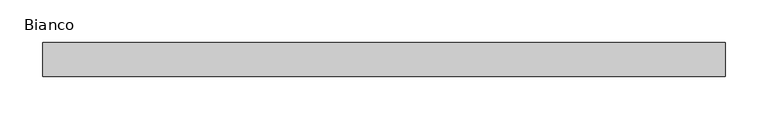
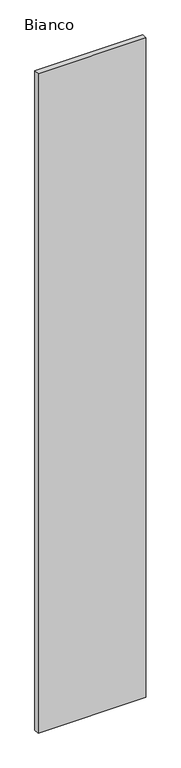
"""IFC4 building model written with IfcOpenShell, lengths in millimetres: plate geometry, Lod 200 Regolare 800 Vertical : Bianco."""

from ifc_helpers import new_model, si_unit, origin, origin_with_axes, place, context, project, spatial, polyline, outline, extrude, source, transform, mapped, element, save


def bianco_e6435c43(model_context):
    return source(origin(), model_context, "Body", "SweptSolid", [
        extrude(outline(polyline([(400.0, 40.0), (400.0, 0.0), (-400.0, 0.0), (-400.0, 40.0), (400.0, 40.0)])), origin_with_axes(), (0.0, 0.0, 1.0), 5176.3809021),
    ])


if __name__ == "__main__":
    model = new_model("IFC4")
    model_context = context("Model", 3, world=origin())
    ifc_project = project(units=[si_unit("LENGTHUNIT", "METRE", prefix="MILLI")], contexts=[model_context])
    site = spatial("IfcSite", under=ifc_project)
    building = spatial("IfcBuilding", under=site)
    placement = place(None, origin())
    bianco_shape = bianco_e6435c43(model_context)
    element("IfcPlate", 1, ObjectType="Lod 200 Regolare 800 Vertical : Bianco", at=placement, inside=building, context=model_context, shape_type="MappedRepresentation", body=[
        mapped(bianco_shape, transform((0.0, 0.0, 0.0), x_axis=(1.0, 0.0, 0.0), y_axis=(0.0, 1.0, 0.0), z_axis=(0.0, 0.0, 1.0))),
    ])
    save(model, "model.ifc")
